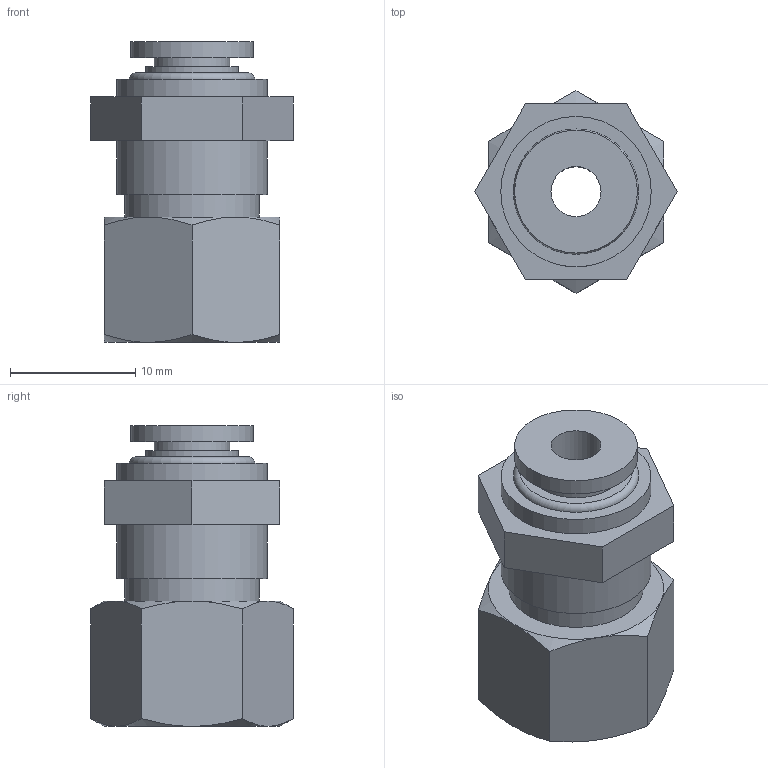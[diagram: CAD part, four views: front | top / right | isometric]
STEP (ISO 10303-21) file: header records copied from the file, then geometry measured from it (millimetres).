
FILE_DESCRIPTION((''),'2;1');
FILE_NAME('S:\UTecnico\ArchivioUT\Speciali Clienti\Speciali KONFIT\Plastica\RP\RP 61\RP611804.stp','2012-05-16T14:33:02',('UT5'),(''),'Autodesk Inventor 2012','Autodesk Inventor 2012','');
FILE_SCHEMA(('AUTOMOTIVE_DESIGN { 1 0 10303 214 1 1 1 1 }'));
Length unit declared in the file: millimetre
Products named in the file (1): RP611804
Bounding box: 16.17 x 16.17 x 24 mm (x, y, z)
Volume: 2580.5 mm3; surface area: 1980.6 mm2
Topology: 1 solids, 1 shells, 44 faces, 91 edges, 58 vertices
Faces by surface type: plane 23, cone 12, cylinder 8, torus 1
Full cylindrical faces by diameter (mm): 4 x1, 6 x1, 7.4 x1, 8.6 x1, 9.8 x1, 10.7 x1, 12 x2
Entity records: 1098 total; most frequent: CARTESIAN_POINT 225, DIRECTION 174, ORIENTED_EDGE 156, EDGE_CURVE 78, AXIS2_PLACEMENT_3D 75, EDGE_LOOP 64, VERTEX_POINT 54, FACE_OUTER_BOUND 44
